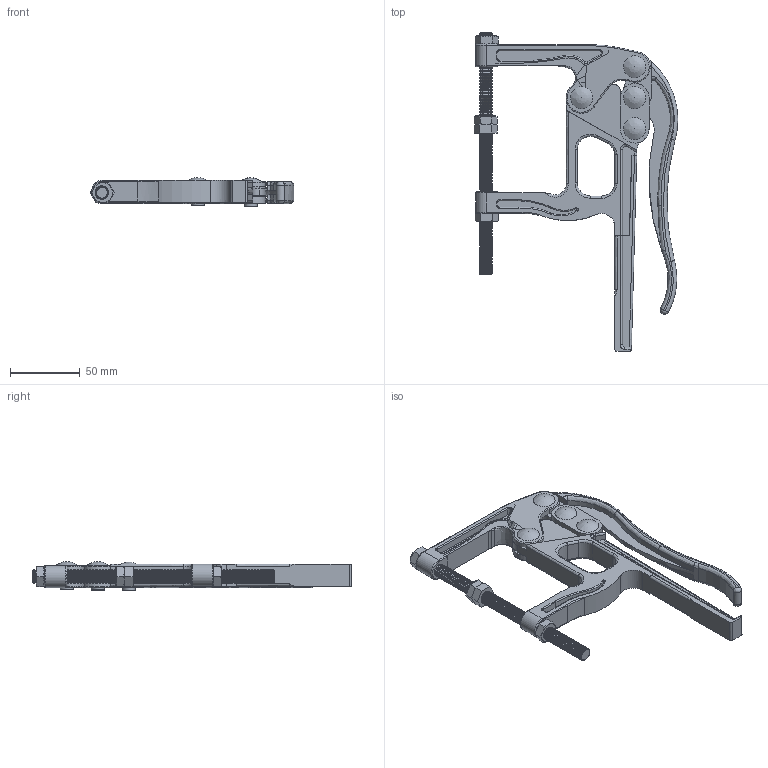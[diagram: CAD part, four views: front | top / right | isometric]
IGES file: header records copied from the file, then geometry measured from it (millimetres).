
Global section: file name: C-1203-2S; native system: Autodesk RealDWG; preprocessor: Autodesk Translation Framework DWG producer (atf_dwg_producer); organization: unknown; date: 20160517.144428; units: inch
Bounding box: 146.2 x 228.92 x 20.57 mm (x, y, z)
Volume: 141600.2 mm3; surface area: 69373.5 mm2
Topology: 14 solids, 16 shells, 600 faces, 1410 edges, 852 vertices
Faces by surface type: bspline 600
